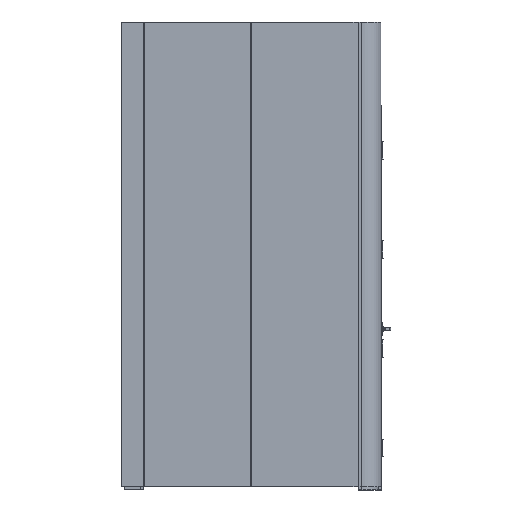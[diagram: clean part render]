
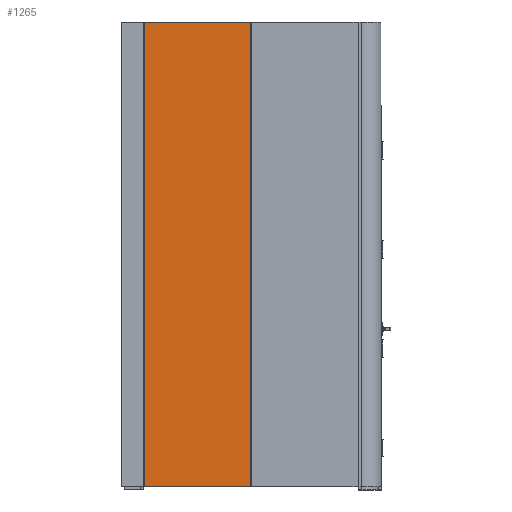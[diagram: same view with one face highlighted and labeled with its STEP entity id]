
A CAD part, left-side view. The second image highlights one B-rep face of the part: STEP entity #1265.
In plain terms, the highlighted planar face has unit normal (-1, 0, 0) as drawn and (1, 0, 0) by its records, which use the part's own axes.
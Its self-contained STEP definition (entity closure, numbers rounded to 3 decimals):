
#462=B_SPLINE_CURVE_WITH_KNOTS('',1,(#9700,#9701),.UNSPECIFIED.,.F.,.F.,
(2,2),(0.,2600.),.UNSPECIFIED.);
#464=B_SPLINE_CURVE_WITH_KNOTS('',1,(#9704,#9705),.UNSPECIFIED.,.F.,.F.,
(2,2),(608.,1204.),.UNSPECIFIED.);
#465=B_SPLINE_CURVE_WITH_KNOTS('',1,(#9706,#9707),.UNSPECIFIED.,.F.,.F.,
(2,2),(0.,2600.),.UNSPECIFIED.);
#466=B_SPLINE_CURVE_WITH_KNOTS('',1,(#9708,#9709),.UNSPECIFIED.,.F.,.F.,
(2,2),(608.,1204.),.UNSPECIFIED.);
#1265=ADVANCED_FACE('',(#1685),#6055,.T.);
#1685=FACE_OUTER_BOUND('',#2105,.T.);
#2105=EDGE_LOOP('',(#3081,#3082,#3083,#3084));
#3081=ORIENTED_EDGE('',*,*,#4532,.T.);
#3082=ORIENTED_EDGE('',*,*,#4533,.T.);
#3083=ORIENTED_EDGE('',*,*,#4534,.F.);
#3084=ORIENTED_EDGE('',*,*,#4530,.F.);
#4530=EDGE_CURVE('',#5521,#5522,#462,.T.);
#4532=EDGE_CURVE('',#5521,#5523,#464,.T.);
#4533=EDGE_CURVE('',#5523,#5524,#465,.T.);
#4534=EDGE_CURVE('',#5522,#5524,#466,.T.);
#5521=VERTEX_POINT('',#9686);
#5522=VERTEX_POINT('',#9687);
#5523=VERTEX_POINT('',#9688);
#5524=VERTEX_POINT('',#9689);
#6055=PLANE('',#7508);
#7508=AXIS2_PLACEMENT_3D('',#9678,#8090,$);
#8090=DIRECTION('',(1.,0.,0.));
#9678=CARTESIAN_POINT('',(-240.446,729.195,18.));
#9686=CARTESIAN_POINT('',(-240.446,729.195,18.));
#9687=CARTESIAN_POINT('',(-240.446,729.195,2618.));
#9688=CARTESIAN_POINT('',(-240.446,1325.195,18.));
#9689=CARTESIAN_POINT('',(-240.446,1325.195,2618.));
#9700=CARTESIAN_POINT('',(-240.446,729.195,18.));
#9701=CARTESIAN_POINT('',(-240.446,729.195,2618.));
#9704=CARTESIAN_POINT('',(-240.446,729.195,18.));
#9705=CARTESIAN_POINT('',(-240.446,1325.195,18.));
#9706=CARTESIAN_POINT('',(-240.446,1325.195,18.));
#9707=CARTESIAN_POINT('',(-240.446,1325.195,2618.));
#9708=CARTESIAN_POINT('',(-240.446,729.195,2618.));
#9709=CARTESIAN_POINT('',(-240.446,1325.195,2618.));
